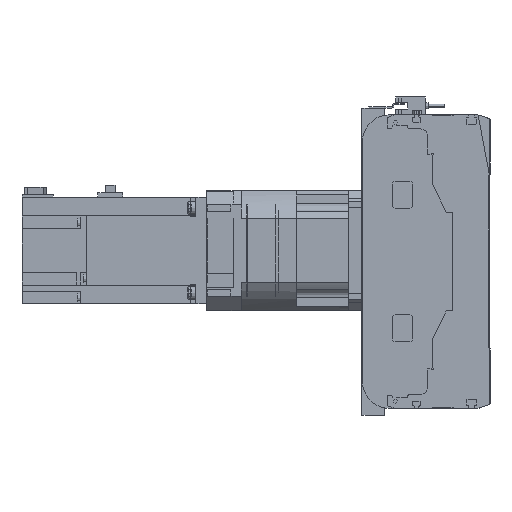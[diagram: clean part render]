
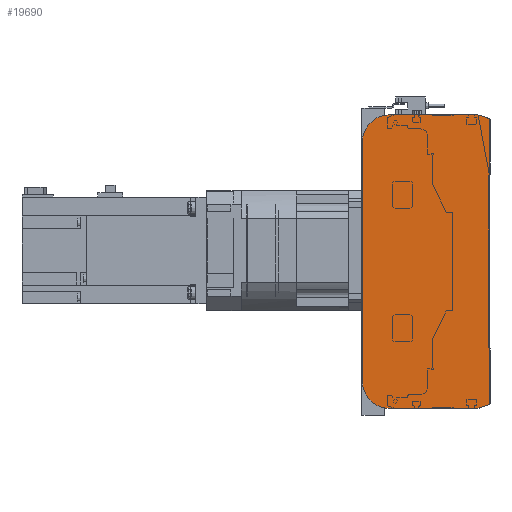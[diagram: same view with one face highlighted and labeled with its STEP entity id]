
A CAD part, left-side view. The second image highlights one B-rep face of the part: STEP entity #19690.
In plain terms, the highlighted planar face has unit normal (-1, 0, 0).
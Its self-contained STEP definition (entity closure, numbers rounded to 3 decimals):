
#1132=CIRCLE('',#21446,20.);
#1133=CIRCLE('',#21449,20.);
#4834=ORIENTED_EDGE('',*,*,#8520,.F.);
#4835=ORIENTED_EDGE('',*,*,#8562,.F.);
#4836=ORIENTED_EDGE('',*,*,#8560,.F.);
#4837=ORIENTED_EDGE('',*,*,#8558,.F.);
#4838=ORIENTED_EDGE('',*,*,#8547,.F.);
#4839=ORIENTED_EDGE('',*,*,#8538,.F.);
#4840=ORIENTED_EDGE('',*,*,#8534,.F.);
#4841=ORIENTED_EDGE('',*,*,#8531,.F.);
#8520=EDGE_CURVE('',#10707,#10708,#12475,.T.);
#8531=EDGE_CURVE('',#10708,#10715,#12486,.T.);
#8534=EDGE_CURVE('',#10715,#10717,#12489,.T.);
#8538=EDGE_CURVE('',#10717,#10718,#12493,.T.);
#8547=EDGE_CURVE('',#10718,#10724,#12502,.T.);
#8558=EDGE_CURVE('',#10724,#10731,#1132,.T.);
#8560=EDGE_CURVE('',#10731,#10732,#12514,.T.);
#8562=EDGE_CURVE('',#10732,#10707,#1133,.T.);
#10707=VERTEX_POINT('',#32676);
#10708=VERTEX_POINT('',#32678);
#10715=VERTEX_POINT('',#32697);
#10717=VERTEX_POINT('',#32703);
#10718=VERTEX_POINT('',#32709);
#10724=VERTEX_POINT('',#32725);
#10731=VERTEX_POINT('',#32744);
#10732=VERTEX_POINT('',#32748);
#12475=LINE('',#32677,#14070);
#12486=LINE('',#32696,#14081);
#12489=LINE('',#32702,#14084);
#12493=LINE('',#32708,#14088);
#12502=LINE('',#32724,#14097);
#12514=LINE('',#32747,#14109);
#14070=VECTOR('',#25929,1000.);
#14081=VECTOR('',#25942,1000.);
#14084=VECTOR('',#25947,1000.);
#14088=VECTOR('',#25953,1000.);
#14097=VECTOR('',#25964,1000.);
#14109=VECTOR('',#25982,1000.);
#15494=EDGE_LOOP('',(#4834,#4835,#4836,#4837,#4838,#4839,#4840,#4841));
#17410=FACE_BOUND('',#15494,.T.);
#18765=PLANE('',#21450);
#19690=ADVANCED_FACE('',(#17410),#18765,.F.);
#21446=AXIS2_PLACEMENT_3D('',#32743,#25977,#25978);
#21449=AXIS2_PLACEMENT_3D('',#32751,#25986,#25987);
#21450=AXIS2_PLACEMENT_3D('',#32752,#25988,#25989);
#25929=DIRECTION('',(0.,-1.,0.));
#25942=DIRECTION('',(0.,-0.945,-0.328));
#25947=DIRECTION('',(0.,0.,-1.));
#25953=DIRECTION('',(0.,0.945,-0.328));
#25964=DIRECTION('',(0.,1.,0.));
#25977=DIRECTION('',(1.,0.,0.));
#25978=DIRECTION('',(0.,0.,-1.));
#25982=DIRECTION('',(0.,0.,1.));
#25986=DIRECTION('',(1.,0.,0.));
#25987=DIRECTION('',(0.,0.,-1.));
#25988=DIRECTION('',(1.,0.,0.));
#25989=DIRECTION('',(0.,0.,-1.));
#32676=CARTESIAN_POINT('',(0.,75.5,110.));
#32677=CARTESIAN_POINT('',(0.,75.5,110.));
#32678=CARTESIAN_POINT('',(0.,9.,110.));
#32696=CARTESIAN_POINT('',(0.,9.,110.));
#32697=CARTESIAN_POINT('',(0.,0.5,107.05));
#32702=CARTESIAN_POINT('',(0.,0.5,107.05));
#32703=CARTESIAN_POINT('',(0.,0.5,-107.05));
#32708=CARTESIAN_POINT('',(0.,0.5,-107.05));
#32709=CARTESIAN_POINT('',(0.,9.,-110.));
#32724=CARTESIAN_POINT('',(0.,9.,-110.));
#32725=CARTESIAN_POINT('',(0.,75.5,-110.));
#32743=CARTESIAN_POINT('',(0.,75.5,-90.));
#32744=CARTESIAN_POINT('',(0.,95.5,-90.));
#32747=CARTESIAN_POINT('',(0.,95.5,-90.));
#32748=CARTESIAN_POINT('',(0.,95.5,90.));
#32751=CARTESIAN_POINT('',(0.,75.5,90.));
#32752=CARTESIAN_POINT('',(0.,75.5,-90.));
